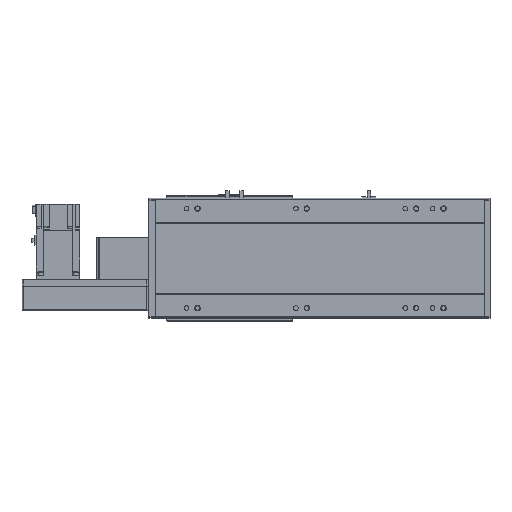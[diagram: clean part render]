
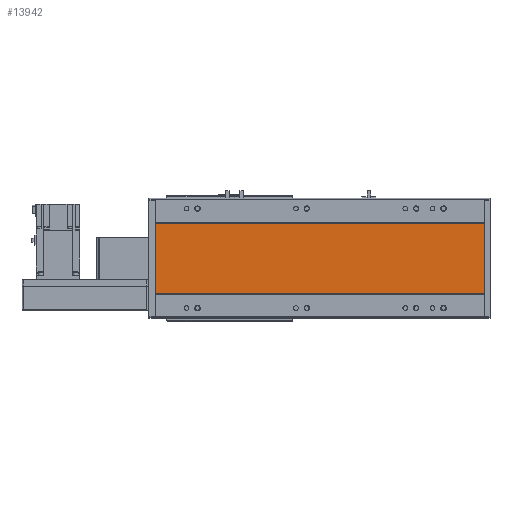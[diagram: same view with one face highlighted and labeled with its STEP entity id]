
A CAD part, front view. The second image highlights one B-rep face of the part: STEP entity #13942.
In plain terms, the highlighted planar face has unit normal (0, -1, 0).
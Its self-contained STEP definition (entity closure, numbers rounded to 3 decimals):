
#3097=ORIENTED_EDGE('',*,*,#6246,.T.);
#3098=ORIENTED_EDGE('',*,*,#6247,.F.);
#3099=ORIENTED_EDGE('',*,*,#6248,.F.);
#3100=ORIENTED_EDGE('',*,*,#6244,.T.);
#6244=EDGE_CURVE('',#7941,#7940,#9194,.T.);
#6246=EDGE_CURVE('',#7940,#7942,#9195,.T.);
#6247=EDGE_CURVE('',#7943,#7942,#9196,.T.);
#6248=EDGE_CURVE('',#7941,#7943,#9197,.T.);
#7940=VERTEX_POINT('',#22927);
#7941=VERTEX_POINT('',#22929);
#7942=VERTEX_POINT('',#22933);
#7943=VERTEX_POINT('',#22935);
#9194=LINE('',#22928,#10531);
#9195=LINE('',#22932,#10532);
#9196=LINE('',#22934,#10533);
#9197=LINE('',#22936,#10534);
#10531=VECTOR('',#18371,1000.);
#10532=VECTOR('',#18376,1000.);
#10533=VECTOR('',#18377,1000.);
#10534=VECTOR('',#18378,1000.);
#11474=EDGE_LOOP('',(#3097,#3098,#3099,#3100));
#12499=FACE_BOUND('',#11474,.T.);
#13297=PLANE('',#15202);
#13942=ADVANCED_FACE('',(#12499),#13297,.F.);
#15202=AXIS2_PLACEMENT_3D('',#22931,#18374,#18375);
#18371=DIRECTION('',(-1.,0.,0.));
#18374=DIRECTION('',(0.,1.,0.));
#18375=DIRECTION('',(0.,0.,1.));
#18376=DIRECTION('',(0.,0.,-1.));
#18377=DIRECTION('',(-1.,0.,0.));
#18378=DIRECTION('',(0.,0.,-1.));
#22927=CARTESIAN_POINT('',(12.,1.,64.294));
#22928=CARTESIAN_POINT('',(614.,1.,64.294));
#22929=CARTESIAN_POINT('',(614.,1.,64.294));
#22931=CARTESIAN_POINT('',(614.,1.,64.294));
#22932=CARTESIAN_POINT('',(12.,1.,64.294));
#22933=CARTESIAN_POINT('',(12.,1.,-64.294));
#22934=CARTESIAN_POINT('',(614.,1.,-64.294));
#22935=CARTESIAN_POINT('',(614.,1.,-64.294));
#22936=CARTESIAN_POINT('',(614.,1.,64.294));
